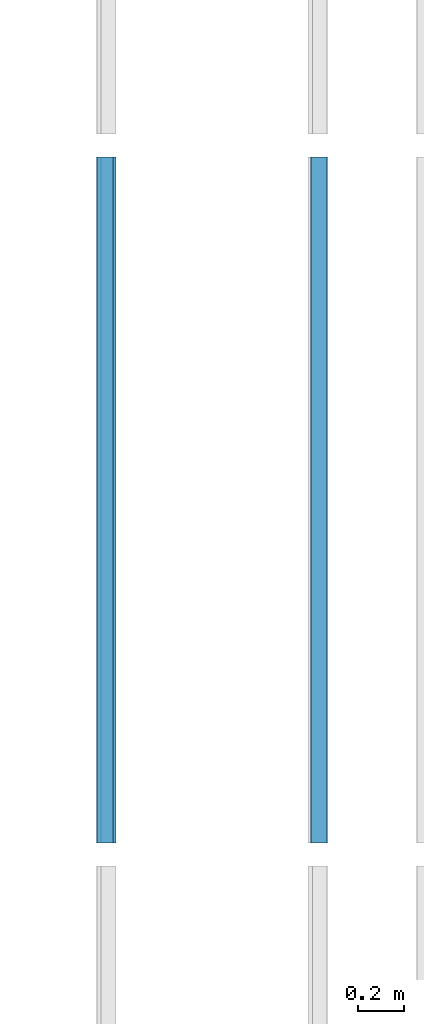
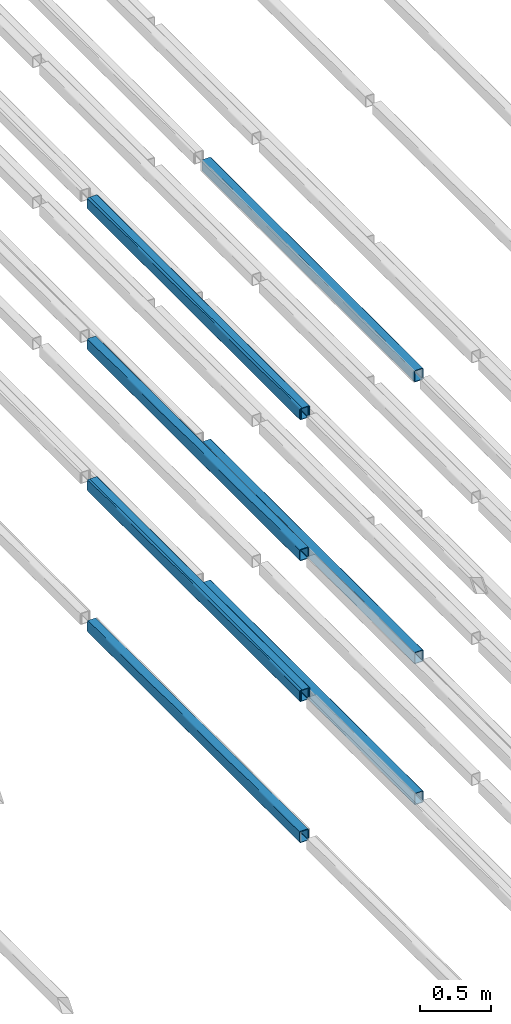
# One storey, part 46 of 290: 9 beams.
"""IFC2X3 building model written with IfcOpenShell, lengths in metres."""

from ifc_helpers import new_model, entity, si_unit, converted_unit, derived_unit, direction, frame, frame_2d, origin, place, context, subcontext, project, spatial, polyline, circle_curve, parameter, trimmed, segment, composite_curve, outline, extrude, material, type_object, element, save


model = new_model("IFC2X3")

# Units and contexts
model_context = context("Model", 3, precision=1e-05, world=origin(), true_north=direction((6.12303176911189e-17, 1.0)))
body_context = subcontext(model_context, "Body", "Model", "MODEL_VIEW")
ifc_project = project(units=[si_unit("LENGTHUNIT", "METRE"), si_unit("AREAUNIT", "SQUARE_METRE"), si_unit("VOLUMEUNIT", "CUBIC_METRE"), converted_unit("PLANEANGLEUNIT", "DEGREE", entity("IfcRatioMeasure", 0.0174532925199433), si_unit("PLANEANGLEUNIT", "RADIAN"), dimensions=[0, 0, 0, 0, 0, 0, 0]), si_unit("MASSUNIT", "GRAM", prefix="KILO"), derived_unit("MASSDENSITYUNIT", [(si_unit("MASSUNIT", "GRAM", prefix="KILO"), 1), (si_unit("LENGTHUNIT", "METRE"), -3)]), derived_unit("MOMENTOFINERTIAUNIT", [(si_unit("LENGTHUNIT", "METRE"), 4)]), si_unit("TIMEUNIT", "SECOND"), si_unit("FREQUENCYUNIT", "HERTZ"), si_unit("THERMODYNAMICTEMPERATUREUNIT", "DEGREE_CELSIUS"), derived_unit("THERMALTRANSMITTANCEUNIT", [(si_unit("MASSUNIT", "GRAM", prefix="KILO"), 1), (si_unit("THERMODYNAMICTEMPERATUREUNIT", "KELVIN"), -1), (si_unit("TIMEUNIT", "SECOND"), -3)]), derived_unit("VOLUMETRICFLOWRATEUNIT", [(si_unit("LENGTHUNIT", "METRE"), 3), (si_unit("TIMEUNIT", "SECOND"), -1)]), si_unit("ELECTRICCURRENTUNIT", "AMPERE"), si_unit("ELECTRICVOLTAGEUNIT", "VOLT"), si_unit("POWERUNIT", "WATT"), si_unit("FORCEUNIT", "NEWTON", prefix="KILO"), si_unit("ILLUMINANCEUNIT", "LUX"), si_unit("LUMINOUSFLUXUNIT", "LUMEN"), si_unit("LUMINOUSINTENSITYUNIT", "CANDELA"), derived_unit("USERDEFINED", [(si_unit("MASSUNIT", "GRAM", prefix="KILO"), -1), (si_unit("LENGTHUNIT", "METRE"), -2), (si_unit("TIMEUNIT", "SECOND"), 3), (si_unit("LUMINOUSFLUXUNIT", "LUMEN"), 1)]), derived_unit("LINEARVELOCITYUNIT", [(si_unit("LENGTHUNIT", "METRE"), 1), (si_unit("TIMEUNIT", "SECOND"), -1)]), si_unit("PRESSUREUNIT", "PASCAL"), derived_unit("USERDEFINED", [(si_unit("LENGTHUNIT", "METRE"), -2), (si_unit("MASSUNIT", "GRAM", prefix="KILO"), 1), (si_unit("TIMEUNIT", "SECOND"), -2)]), derived_unit("LINEARFORCEUNIT", [(si_unit("MASSUNIT", "GRAM", prefix="KILO"), 1), (si_unit("LENGTHUNIT", "METRE"), 1), (si_unit("TIMEUNIT", "SECOND"), -2), (si_unit("LENGTHUNIT", "METRE"), -1)]), derived_unit("PLANARFORCEUNIT", [(si_unit("MASSUNIT", "GRAM", prefix="KILO"), 1), (si_unit("LENGTHUNIT", "METRE"), 1), (si_unit("TIMEUNIT", "SECOND"), -2), (si_unit("LENGTHUNIT", "METRE"), -2)])], contexts=[model_context])

# Site, building, storey
site_placement = place(None, origin())
site = spatial("IfcSite", under=ifc_project, at=site_placement, Name="Default", CompositionType="ELEMENT")
building_placement = place(site_placement, origin())
building = spatial("IfcBuilding", under=site, at=building_placement, CompositionType="ELEMENT")
storey_placement = place(building_placement, frame((0.0, 0.0, 4.0)))
storey = spatial("IfcBuildingStorey", under=building, at=storey_placement, Name="01_OG", CompositionType="ELEMENT", Elevation=4.0)

# Beams
ifc_material = material(Name="Metall - Baustahl S235 blau")
beam_type = type_object("IfcBeamType", Name="RHS Träger (EN 10219-2):RHS 100 x 75 x 5", PredefinedType="NOTDEFINED")
beam_1_placement = place(storey_placement, frame((-202.105111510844, 36.448088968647, 0.0150000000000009), z_axis=(0.0, 0.0, 1.0), x_axis=(0.0, 1.0, 0.0)))
element("IfcBeam", 1, at=beam_1_placement, inside=storey, type_object=beam_type, material=ifc_material, Name="RHS Träger (EN 10219-2):RHS 100 x 75 x 5", ObjectType="RHS Träger (EN 10219-2):RHS 100 x 75 x 5", context=body_context, shape_type="SweptSolid", body=[
    extrude(outline(composite_curve([segment(trimmed(circle_curve(frame_2d((-0.0274999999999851, -0.0400000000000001), x_axis=(1.0, 0.0)), 0.01), [parameter(180.0)], [parameter(270.0)], True, "PARAMETER"), True, "CONTINUOUS"), segment(polyline([(-0.0274999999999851, -0.05), (0.0274999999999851, -0.05)]), True, "CONTINUOUS"), segment(trimmed(circle_curve(frame_2d((0.0274999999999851, -0.0400000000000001), x_axis=(1.0, 0.0)), 0.01), [parameter(270.0)], [parameter(5.08888749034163e-14)], True, "PARAMETER"), True, "CONTINUOUS"), segment(polyline([(0.0375000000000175, -0.0400000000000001), (0.0375000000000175, 0.0400000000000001)]), True, "CONTINUOUS"), segment(trimmed(circle_curve(frame_2d((0.0274999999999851, 0.0400000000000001), x_axis=(1.0, 0.0)), 0.01), [parameter(360.0)], [parameter(89.9999999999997)], True, "PARAMETER"), True, "CONTINUOUS"), segment(polyline([(0.0274999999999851, 0.05), (-0.0274999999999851, 0.05)]), True, "CONTINUOUS"), segment(trimmed(circle_curve(frame_2d((-0.0274999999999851, 0.0400000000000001), x_axis=(1.0, 0.0)), 0.01), [parameter(90.0000000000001)], [parameter(180.0)], True, "PARAMETER"), True, "CONTINUOUS"), segment(polyline([(-0.0374999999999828, 0.0400000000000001), (-0.0374999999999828, -0.0400000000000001)]), True, "CONTINUOUS")], self_intersect=False), holes=[composite_curve([segment(polyline([(0.0274999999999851, -0.0450000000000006), (-0.0274999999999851, -0.0450000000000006)]), True, "CONTINUOUS"), segment(trimmed(circle_curve(frame_2d((-0.0274999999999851, -0.0400000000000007), x_axis=(1.0, 0.0)), 0.005), [parameter(180.0)], [parameter(270.0)], True, "PARAMETER"), False, "CONTINUOUS"), segment(polyline([(-0.0325000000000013, -0.0400000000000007), (-0.0325000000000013, 0.039999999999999)]), True, "CONTINUOUS"), segment(trimmed(circle_curve(frame_2d((-0.0274999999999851, 0.039999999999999), x_axis=(1.0, 0.0)), 0.005), [parameter(90.0000000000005)], [parameter(180.0)], True, "PARAMETER"), False, "CONTINUOUS"), segment(polyline([(-0.0274999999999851, 0.044999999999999), (0.0274999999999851, 0.044999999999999)]), True, "CONTINUOUS"), segment(trimmed(circle_curve(frame_2d((0.0274999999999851, 0.039999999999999), x_axis=(1.0, 0.0)), 0.005), [parameter(0.0)], [parameter(90.0000000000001)], True, "PARAMETER"), False, "CONTINUOUS"), segment(polyline([(0.0325000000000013, 0.039999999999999), (0.0325000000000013, -0.0400000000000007)]), True, "CONTINUOUS"), segment(trimmed(circle_curve(frame_2d((0.0274999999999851, -0.0400000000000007), x_axis=(1.0, 0.0)), 0.005), [parameter(270.0)], [parameter(4.07110999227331e-13)], True, "PARAMETER"), False, "CONTINUOUS")], self_intersect=False)]), frame((9.9999999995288e-05, 0.0375000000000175, -0.0500000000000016), z_axis=(1.0, 0.0, 0.0), x_axis=(0.0, -1.0, 0.0)), (0.0, 0.0, 1.0), 2.9998),
])
beam_2_placement = place(storey_placement, frame((-202.105111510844, 36.448088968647, 2.445), z_axis=(0.0, 0.0, 1.0), x_axis=(0.0, 1.0, 0.0)))
element("IfcBeam", 2, at=beam_2_placement, inside=storey, type_object=beam_type, material=ifc_material, Name="RHS Träger (EN 10219-2):RHS 100 x 75 x 5", ObjectType="RHS Träger (EN 10219-2):RHS 100 x 75 x 5", context=body_context, shape_type="SweptSolid", body=[
    extrude(outline(composite_curve([segment(trimmed(circle_curve(frame_2d((-0.0274999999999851, -0.0399999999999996), x_axis=(1.0, 0.0)), 0.01), [parameter(180.0)], [parameter(270.0)], True, "PARAMETER"), True, "CONTINUOUS"), segment(polyline([(-0.0274999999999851, -0.0499999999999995), (0.0274999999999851, -0.0499999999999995)]), True, "CONTINUOUS"), segment(trimmed(circle_curve(frame_2d((0.0274999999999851, -0.0399999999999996), x_axis=(1.0, 0.0)), 0.01), [parameter(270.0)], [parameter(5.08888749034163e-14)], True, "PARAMETER"), True, "CONTINUOUS"), segment(polyline([(0.0375000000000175, -0.0399999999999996), (0.0375000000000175, 0.0399999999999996)]), True, "CONTINUOUS"), segment(trimmed(circle_curve(frame_2d((0.0274999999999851, 0.0399999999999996), x_axis=(1.0, 0.0)), 0.01), [parameter(360.0)], [parameter(89.9999999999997)], True, "PARAMETER"), True, "CONTINUOUS"), segment(polyline([(0.0274999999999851, 0.0500000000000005), (-0.0274999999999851, 0.0500000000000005)]), True, "CONTINUOUS"), segment(trimmed(circle_curve(frame_2d((-0.0274999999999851, 0.0399999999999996), x_axis=(1.0, 0.0)), 0.01), [parameter(90.0000000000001)], [parameter(180.0)], True, "PARAMETER"), True, "CONTINUOUS"), segment(polyline([(-0.0374999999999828, 0.0399999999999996), (-0.0374999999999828, -0.0399999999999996)]), True, "CONTINUOUS")], self_intersect=False), holes=[composite_curve([segment(polyline([(0.0274999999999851, -0.0450000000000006), (-0.0274999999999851, -0.0450000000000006)]), True, "CONTINUOUS"), segment(trimmed(circle_curve(frame_2d((-0.0274999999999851, -0.0400000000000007), x_axis=(1.0, 0.0)), 0.005), [parameter(180.0)], [parameter(270.0)], True, "PARAMETER"), False, "CONTINUOUS"), segment(polyline([(-0.0325000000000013, -0.0400000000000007), (-0.0325000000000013, 0.0399999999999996)]), True, "CONTINUOUS"), segment(trimmed(circle_curve(frame_2d((-0.0274999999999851, 0.0399999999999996), x_axis=(1.0, 0.0)), 0.005), [parameter(90.0000000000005)], [parameter(180.0)], True, "PARAMETER"), False, "CONTINUOUS"), segment(polyline([(-0.0274999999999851, 0.0449999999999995), (0.0274999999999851, 0.0449999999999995)]), True, "CONTINUOUS"), segment(trimmed(circle_curve(frame_2d((0.0274999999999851, 0.0399999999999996), x_axis=(1.0, 0.0)), 0.005), [parameter(0.0)], [parameter(90.0000000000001)], True, "PARAMETER"), False, "CONTINUOUS"), segment(polyline([(0.0325000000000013, 0.0399999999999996), (0.0325000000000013, -0.0400000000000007)]), True, "CONTINUOUS"), segment(trimmed(circle_curve(frame_2d((0.0274999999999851, -0.0400000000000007), x_axis=(1.0, 0.0)), 0.005), [parameter(270.0)], [parameter(4.07110999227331e-13)], True, "PARAMETER"), False, "CONTINUOUS")], self_intersect=False)]), frame((9.99999999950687e-05, 0.0375000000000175, -0.0500000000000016), z_axis=(1.0, 0.0, 0.0), x_axis=(0.0, -1.0, 0.0)), (0.0, 0.0, 1.0), 2.9998),
])
beam_3_placement = place(storey_placement, frame((-201.255111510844, 36.448088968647, -1.2), z_axis=(0.0, 0.0, 1.0), x_axis=(0.0, 1.0, 0.0)))
element("IfcBeam", 3, at=beam_3_placement, inside=storey, type_object=beam_type, material=ifc_material, Name="RHS Träger (EN 10219-2):RHS 100 x 75 x 5", ObjectType="RHS Träger (EN 10219-2):RHS 100 x 75 x 5", context=body_context, shape_type="SweptSolid", body=[
    extrude(outline(composite_curve([segment(polyline([(-0.0400000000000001, -0.0374999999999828), (0.0400000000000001, -0.0374999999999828)]), True, "CONTINUOUS"), segment(trimmed(circle_curve(frame_2d((0.0400000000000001, -0.0274999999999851), x_axis=(0.0, 1.0)), 0.01), [parameter(180.0)], [parameter(270.0)], True, "PARAMETER"), True, "CONTINUOUS"), segment(polyline([(0.05, -0.0274999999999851), (0.05, 0.0274999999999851)]), True, "CONTINUOUS"), segment(trimmed(circle_curve(frame_2d((0.0400000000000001, 0.0274999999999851), x_axis=(0.0, 1.0)), 0.01), [parameter(270.0)], [parameter(4.07110999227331e-13)], True, "PARAMETER"), True, "CONTINUOUS"), segment(polyline([(0.0400000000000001, 0.0375000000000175), (-0.0400000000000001, 0.0375000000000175)]), True, "CONTINUOUS"), segment(trimmed(circle_curve(frame_2d((-0.0400000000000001, 0.0274999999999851), x_axis=(0.0, 1.0)), 0.01), [parameter(360.0)], [parameter(90.0000000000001)], True, "PARAMETER"), True, "CONTINUOUS"), segment(polyline([(-0.05, 0.0274999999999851), (-0.05, -0.0274999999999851)]), True, "CONTINUOUS"), segment(trimmed(circle_curve(frame_2d((-0.0400000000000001, -0.0274999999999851), x_axis=(0.0, 1.0)), 0.01), [parameter(90.0000000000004)], [parameter(180.0)], True, "PARAMETER"), True, "CONTINUOUS")], self_intersect=False), holes=[composite_curve([segment(trimmed(circle_curve(frame_2d((-0.0400000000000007, 0.0274999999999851), x_axis=(0.0, 1.0)), 0.005), [parameter(360.0)], [parameter(89.9999999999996)], True, "PARAMETER"), False, "CONTINUOUS"), segment(polyline([(-0.0400000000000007, 0.0325000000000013), (0.039999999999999, 0.0325000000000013)]), True, "CONTINUOUS"), segment(trimmed(circle_curve(frame_2d((0.039999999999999, 0.0274999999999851), x_axis=(0.0, 1.0)), 0.005), [parameter(270.0)], [parameter(0.0)], True, "PARAMETER"), False, "CONTINUOUS"), segment(polyline([(0.044999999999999, 0.0274999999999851), (0.044999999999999, -0.0274999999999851)]), True, "CONTINUOUS"), segment(trimmed(circle_curve(frame_2d((0.039999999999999, -0.0274999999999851), x_axis=(0.0, 1.0)), 0.005), [parameter(180.0)], [parameter(269.999999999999)], True, "PARAMETER"), False, "CONTINUOUS"), segment(polyline([(0.039999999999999, -0.0325000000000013), (-0.0400000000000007, -0.0325000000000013)]), True, "CONTINUOUS"), segment(trimmed(circle_curve(frame_2d((-0.0400000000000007, -0.0274999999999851), x_axis=(0.0, 1.0)), 0.005), [parameter(90.0000000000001)], [parameter(180.0)], True, "PARAMETER"), False, "CONTINUOUS"), segment(polyline([(-0.0450000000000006, -0.0274999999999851), (-0.0450000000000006, 0.0274999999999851)]), True, "CONTINUOUS")], self_intersect=False)]), frame((9.99999999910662e-05, -0.0375000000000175, -0.0500000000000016), z_axis=(1.0, 0.0, 0.0), x_axis=(0.0, 0.0, -1.0)), (0.0, 0.0, 1.0), 2.9998),
])
beam_4_placement = place(storey_placement, frame((-201.255111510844, 36.448088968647, 0.0150000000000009), z_axis=(0.0, 0.0, 1.0), x_axis=(0.0, 1.0, 0.0)))
element("IfcBeam", 4, at=beam_4_placement, inside=storey, type_object=beam_type, material=ifc_material, Name="RHS Träger (EN 10219-2):RHS 100 x 75 x 5", ObjectType="RHS Träger (EN 10219-2):RHS 100 x 75 x 5", context=body_context, shape_type="SweptSolid", body=[
    extrude(outline(composite_curve([segment(polyline([(-0.0400000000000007, -0.0374999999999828), (0.0399999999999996, -0.0374999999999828)]), True, "CONTINUOUS"), segment(trimmed(circle_curve(frame_2d((0.0399999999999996, -0.0274999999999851), x_axis=(0.0, 1.0)), 0.01), [parameter(180.0)], [parameter(270.0)], True, "PARAMETER"), True, "CONTINUOUS"), segment(polyline([(0.0499999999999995, -0.0274999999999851), (0.0499999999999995, 0.0274999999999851)]), True, "CONTINUOUS"), segment(trimmed(circle_curve(frame_2d((0.0399999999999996, 0.0274999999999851), x_axis=(0.0, 1.0)), 0.01), [parameter(270.0)], [parameter(4.07110999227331e-13)], True, "PARAMETER"), True, "CONTINUOUS"), segment(polyline([(0.0399999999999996, 0.0375000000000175), (-0.0400000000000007, 0.0375000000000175)]), True, "CONTINUOUS"), segment(trimmed(circle_curve(frame_2d((-0.0400000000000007, 0.0274999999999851), x_axis=(0.0, 1.0)), 0.01), [parameter(360.0)], [parameter(90.0000000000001)], True, "PARAMETER"), True, "CONTINUOUS"), segment(polyline([(-0.0500000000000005, 0.0274999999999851), (-0.0500000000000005, -0.0274999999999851)]), True, "CONTINUOUS"), segment(trimmed(circle_curve(frame_2d((-0.0400000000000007, -0.0274999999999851), x_axis=(0.0, 1.0)), 0.01), [parameter(90.0000000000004)], [parameter(180.0)], True, "PARAMETER"), True, "CONTINUOUS")], self_intersect=False), holes=[composite_curve([segment(trimmed(circle_curve(frame_2d((-0.0400000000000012, 0.0274999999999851), x_axis=(0.0, 1.0)), 0.005), [parameter(360.0)], [parameter(89.9999999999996)], True, "PARAMETER"), False, "CONTINUOUS"), segment(polyline([(-0.0400000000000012, 0.0325000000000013), (0.0399999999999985, 0.0325000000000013)]), True, "CONTINUOUS"), segment(trimmed(circle_curve(frame_2d((0.0399999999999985, 0.0274999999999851), x_axis=(0.0, 1.0)), 0.005), [parameter(270.0)], [parameter(0.0)], True, "PARAMETER"), False, "CONTINUOUS"), segment(polyline([(0.0449999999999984, 0.0274999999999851), (0.0449999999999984, -0.0274999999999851)]), True, "CONTINUOUS"), segment(trimmed(circle_curve(frame_2d((0.0399999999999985, -0.0274999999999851), x_axis=(0.0, 1.0)), 0.005), [parameter(180.0)], [parameter(269.999999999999)], True, "PARAMETER"), False, "CONTINUOUS"), segment(polyline([(0.0399999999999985, -0.0325000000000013), (-0.0400000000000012, -0.0325000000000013)]), True, "CONTINUOUS"), segment(trimmed(circle_curve(frame_2d((-0.0400000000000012, -0.0274999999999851), x_axis=(0.0, 1.0)), 0.005), [parameter(90.0000000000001)], [parameter(180.0)], True, "PARAMETER"), False, "CONTINUOUS"), segment(polyline([(-0.0450000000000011, -0.0274999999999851), (-0.0450000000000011, 0.0274999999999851)]), True, "CONTINUOUS")], self_intersect=False)]), frame((9.99999999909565e-05, -0.0375000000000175, -0.0500000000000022), z_axis=(1.0, 0.0, 0.0), x_axis=(0.0, 0.0, -1.0)), (0.0, 0.0, 1.0), 2.9998),
])
beam_5_placement = place(storey_placement, frame((-201.255111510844, 36.448088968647, 2.445), z_axis=(0.0, 0.0, 1.0), x_axis=(0.0, 1.0, 0.0)))
element("IfcBeam", 5, at=beam_5_placement, inside=storey, type_object=beam_type, material=ifc_material, Name="RHS Träger (EN 10219-2):RHS 100 x 75 x 5", ObjectType="RHS Träger (EN 10219-2):RHS 100 x 75 x 5", context=body_context, shape_type="SweptSolid", body=[
    extrude(outline(composite_curve([segment(polyline([(-0.0399999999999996, -0.0374999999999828), (0.0399999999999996, -0.0374999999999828)]), True, "CONTINUOUS"), segment(trimmed(circle_curve(frame_2d((0.0399999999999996, -0.0274999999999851), x_axis=(0.0, 1.0)), 0.01), [parameter(180.0)], [parameter(270.0)], True, "PARAMETER"), True, "CONTINUOUS"), segment(polyline([(0.0500000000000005, -0.0274999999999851), (0.0500000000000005, 0.0274999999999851)]), True, "CONTINUOUS"), segment(trimmed(circle_curve(frame_2d((0.0399999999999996, 0.0274999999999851), x_axis=(0.0, 1.0)), 0.01), [parameter(270.0)], [parameter(4.07110999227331e-13)], True, "PARAMETER"), True, "CONTINUOUS"), segment(polyline([(0.0399999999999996, 0.0375000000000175), (-0.0399999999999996, 0.0375000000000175)]), True, "CONTINUOUS"), segment(trimmed(circle_curve(frame_2d((-0.0399999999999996, 0.0274999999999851), x_axis=(0.0, 1.0)), 0.01), [parameter(360.0)], [parameter(90.0000000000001)], True, "PARAMETER"), True, "CONTINUOUS"), segment(polyline([(-0.0499999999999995, 0.0274999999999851), (-0.0499999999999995, -0.0274999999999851)]), True, "CONTINUOUS"), segment(trimmed(circle_curve(frame_2d((-0.0399999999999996, -0.0274999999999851), x_axis=(0.0, 1.0)), 0.01), [parameter(90.0000000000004)], [parameter(180.0)], True, "PARAMETER"), True, "CONTINUOUS")], self_intersect=False), holes=[composite_curve([segment(trimmed(circle_curve(frame_2d((-0.0400000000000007, 0.0274999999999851), x_axis=(0.0, 1.0)), 0.005), [parameter(360.0)], [parameter(89.9999999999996)], True, "PARAMETER"), False, "CONTINUOUS"), segment(polyline([(-0.0400000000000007, 0.0325000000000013), (0.0399999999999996, 0.0325000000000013)]), True, "CONTINUOUS"), segment(trimmed(circle_curve(frame_2d((0.0399999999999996, 0.0274999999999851), x_axis=(0.0, 1.0)), 0.005), [parameter(270.0)], [parameter(0.0)], True, "PARAMETER"), False, "CONTINUOUS"), segment(polyline([(0.0449999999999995, 0.0274999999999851), (0.0449999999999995, -0.0274999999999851)]), True, "CONTINUOUS"), segment(trimmed(circle_curve(frame_2d((0.0399999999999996, -0.0274999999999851), x_axis=(0.0, 1.0)), 0.005), [parameter(180.0)], [parameter(269.999999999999)], True, "PARAMETER"), False, "CONTINUOUS"), segment(polyline([(0.0399999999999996, -0.0325000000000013), (-0.0400000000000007, -0.0325000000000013)]), True, "CONTINUOUS"), segment(trimmed(circle_curve(frame_2d((-0.0400000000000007, -0.0274999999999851), x_axis=(0.0, 1.0)), 0.005), [parameter(90.0000000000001)], [parameter(180.0)], True, "PARAMETER"), False, "CONTINUOUS"), segment(polyline([(-0.0450000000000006, -0.0274999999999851), (-0.0450000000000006, 0.0274999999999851)]), True, "CONTINUOUS")], self_intersect=False)]), frame((9.99999999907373e-05, -0.0375000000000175, -0.0500000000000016), z_axis=(1.0, 0.0, 0.0), x_axis=(0.0, 0.0, -1.0)), (0.0, 0.0, 1.0), 2.9998),
])
beam_6_placement = place(storey_placement, frame((-202.115111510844, 36.448088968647, -1.2), z_axis=(0.0, 0.0, 1.0), x_axis=(0.0, 1.0, 0.0)))
element("IfcBeam", 6, at=beam_6_placement, inside=storey, type_object=beam_type, material=ifc_material, Name="RHS Träger (EN 10219-2):RHS 100 x 75 x 5", ObjectType="RHS Träger (EN 10219-2):RHS 100 x 75 x 5", context=body_context, shape_type="SweptSolid", body=[
    extrude(outline(composite_curve([segment(trimmed(circle_curve(frame_2d((-0.0274999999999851, -0.0400000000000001), x_axis=(1.0, 0.0)), 0.01), [parameter(180.0)], [parameter(270.0)], True, "PARAMETER"), True, "CONTINUOUS"), segment(polyline([(-0.0274999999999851, -0.05), (0.0274999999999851, -0.05)]), True, "CONTINUOUS"), segment(trimmed(circle_curve(frame_2d((0.0274999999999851, -0.0400000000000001), x_axis=(1.0, 0.0)), 0.01), [parameter(270.0)], [parameter(5.08888749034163e-14)], True, "PARAMETER"), True, "CONTINUOUS"), segment(polyline([(0.0375000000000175, -0.0400000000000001), (0.0375000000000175, 0.0400000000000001)]), True, "CONTINUOUS"), segment(trimmed(circle_curve(frame_2d((0.0274999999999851, 0.0400000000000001), x_axis=(1.0, 0.0)), 0.01), [parameter(360.0)], [parameter(89.9999999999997)], True, "PARAMETER"), True, "CONTINUOUS"), segment(polyline([(0.0274999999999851, 0.05), (-0.0274999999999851, 0.05)]), True, "CONTINUOUS"), segment(trimmed(circle_curve(frame_2d((-0.0274999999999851, 0.0400000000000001), x_axis=(1.0, 0.0)), 0.01), [parameter(90.0000000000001)], [parameter(180.0)], True, "PARAMETER"), True, "CONTINUOUS"), segment(polyline([(-0.0374999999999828, 0.0400000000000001), (-0.0374999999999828, -0.0400000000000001)]), True, "CONTINUOUS")], self_intersect=False), holes=[composite_curve([segment(polyline([(0.0274999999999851, -0.0450000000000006), (-0.0274999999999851, -0.0450000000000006)]), True, "CONTINUOUS"), segment(trimmed(circle_curve(frame_2d((-0.0274999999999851, -0.0400000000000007), x_axis=(1.0, 0.0)), 0.005), [parameter(180.0)], [parameter(270.0)], True, "PARAMETER"), False, "CONTINUOUS"), segment(polyline([(-0.0325000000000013, -0.0400000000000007), (-0.0325000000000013, 0.039999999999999)]), True, "CONTINUOUS"), segment(trimmed(circle_curve(frame_2d((-0.0274999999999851, 0.039999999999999), x_axis=(1.0, 0.0)), 0.005), [parameter(90.0000000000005)], [parameter(180.0)], True, "PARAMETER"), False, "CONTINUOUS"), segment(polyline([(-0.0274999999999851, 0.044999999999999), (0.0274999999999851, 0.044999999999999)]), True, "CONTINUOUS"), segment(trimmed(circle_curve(frame_2d((0.0274999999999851, 0.039999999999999), x_axis=(1.0, 0.0)), 0.005), [parameter(0.0)], [parameter(90.0000000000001)], True, "PARAMETER"), False, "CONTINUOUS"), segment(polyline([(0.0325000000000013, 0.039999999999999), (0.0325000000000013, -0.0400000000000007)]), True, "CONTINUOUS"), segment(trimmed(circle_curve(frame_2d((0.0274999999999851, -0.0400000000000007), x_axis=(1.0, 0.0)), 0.005), [parameter(270.0)], [parameter(4.07110999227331e-13)], True, "PARAMETER"), False, "CONTINUOUS")], self_intersect=False)]), frame((9.99999999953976e-05, 0.0375000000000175, -0.0500000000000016), z_axis=(1.0, 0.0, 0.0), x_axis=(0.0, -1.0, 0.0)), (0.0, 0.0, 1.0), 2.9998),
])
beam_7_placement = place(storey_placement, frame((-202.115111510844, 36.448088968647, 0.0150000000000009), z_axis=(0.0, 0.0, 1.0), x_axis=(0.0, 1.0, 0.0)))
element("IfcBeam", 7, at=beam_7_placement, inside=storey, type_object=beam_type, material=ifc_material, Name="RHS Träger (EN 10219-2):RHS 100 x 75 x 5", ObjectType="RHS Träger (EN 10219-2):RHS 100 x 75 x 5", context=body_context, shape_type="SweptSolid", body=[
    extrude(outline(composite_curve([segment(trimmed(circle_curve(frame_2d((-0.0274999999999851, -0.0400000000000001), x_axis=(1.0, 0.0)), 0.01), [parameter(180.0)], [parameter(270.0)], True, "PARAMETER"), True, "CONTINUOUS"), segment(polyline([(-0.0274999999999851, -0.05), (0.0274999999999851, -0.05)]), True, "CONTINUOUS"), segment(trimmed(circle_curve(frame_2d((0.0274999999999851, -0.0400000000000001), x_axis=(1.0, 0.0)), 0.01), [parameter(270.0)], [parameter(5.08888749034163e-14)], True, "PARAMETER"), True, "CONTINUOUS"), segment(polyline([(0.0375000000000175, -0.0400000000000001), (0.0375000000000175, 0.0400000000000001)]), True, "CONTINUOUS"), segment(trimmed(circle_curve(frame_2d((0.0274999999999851, 0.0400000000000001), x_axis=(1.0, 0.0)), 0.01), [parameter(360.0)], [parameter(89.9999999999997)], True, "PARAMETER"), True, "CONTINUOUS"), segment(polyline([(0.0274999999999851, 0.05), (-0.0274999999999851, 0.05)]), True, "CONTINUOUS"), segment(trimmed(circle_curve(frame_2d((-0.0274999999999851, 0.0400000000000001), x_axis=(1.0, 0.0)), 0.01), [parameter(90.0000000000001)], [parameter(180.0)], True, "PARAMETER"), True, "CONTINUOUS"), segment(polyline([(-0.0374999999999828, 0.0400000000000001), (-0.0374999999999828, -0.0400000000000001)]), True, "CONTINUOUS")], self_intersect=False), holes=[composite_curve([segment(polyline([(0.0274999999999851, -0.0450000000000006), (-0.0274999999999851, -0.0450000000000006)]), True, "CONTINUOUS"), segment(trimmed(circle_curve(frame_2d((-0.0274999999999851, -0.0400000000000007), x_axis=(1.0, 0.0)), 0.005), [parameter(180.0)], [parameter(270.0)], True, "PARAMETER"), False, "CONTINUOUS"), segment(polyline([(-0.0325000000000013, -0.0400000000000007), (-0.0325000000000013, 0.039999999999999)]), True, "CONTINUOUS"), segment(trimmed(circle_curve(frame_2d((-0.0274999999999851, 0.039999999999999), x_axis=(1.0, 0.0)), 0.005), [parameter(90.0000000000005)], [parameter(180.0)], True, "PARAMETER"), False, "CONTINUOUS"), segment(polyline([(-0.0274999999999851, 0.044999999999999), (0.0274999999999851, 0.044999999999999)]), True, "CONTINUOUS"), segment(trimmed(circle_curve(frame_2d((0.0274999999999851, 0.039999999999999), x_axis=(1.0, 0.0)), 0.005), [parameter(0.0)], [parameter(90.0000000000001)], True, "PARAMETER"), False, "CONTINUOUS"), segment(polyline([(0.0325000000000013, 0.039999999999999), (0.0325000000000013, -0.0400000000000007)]), True, "CONTINUOUS"), segment(trimmed(circle_curve(frame_2d((0.0274999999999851, -0.0400000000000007), x_axis=(1.0, 0.0)), 0.005), [parameter(270.0)], [parameter(4.07110999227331e-13)], True, "PARAMETER"), False, "CONTINUOUS")], self_intersect=False)]), frame((9.9999999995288e-05, 0.0375000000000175, -0.0500000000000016), z_axis=(1.0, 0.0, 0.0), x_axis=(0.0, -1.0, 0.0)), (0.0, 0.0, 1.0), 2.9998),
])
beam_8_placement = place(storey_placement, frame((-202.115111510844, 36.448088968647, 1.23), z_axis=(0.0, 0.0, 1.0), x_axis=(0.0, 1.0, 0.0)))
element("IfcBeam", 8, at=beam_8_placement, inside=storey, type_object=beam_type, material=ifc_material, Name="RHS Träger (EN 10219-2):RHS 100 x 75 x 5", ObjectType="RHS Träger (EN 10219-2):RHS 100 x 75 x 5", context=body_context, shape_type="SweptSolid", body=[
    extrude(outline(composite_curve([segment(trimmed(circle_curve(frame_2d((-0.0274999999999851, -0.0399999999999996), x_axis=(1.0, 0.0)), 0.01), [parameter(180.0)], [parameter(270.0)], True, "PARAMETER"), True, "CONTINUOUS"), segment(polyline([(-0.0274999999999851, -0.0499999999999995), (0.0274999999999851, -0.0499999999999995)]), True, "CONTINUOUS"), segment(trimmed(circle_curve(frame_2d((0.0274999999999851, -0.0399999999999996), x_axis=(1.0, 0.0)), 0.01), [parameter(270.0)], [parameter(5.08888749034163e-14)], True, "PARAMETER"), True, "CONTINUOUS"), segment(polyline([(0.0375000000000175, -0.0399999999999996), (0.0375000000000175, 0.0399999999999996)]), True, "CONTINUOUS"), segment(trimmed(circle_curve(frame_2d((0.0274999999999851, 0.0399999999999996), x_axis=(1.0, 0.0)), 0.01), [parameter(360.0)], [parameter(89.9999999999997)], True, "PARAMETER"), True, "CONTINUOUS"), segment(polyline([(0.0274999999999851, 0.0500000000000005), (-0.0274999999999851, 0.0500000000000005)]), True, "CONTINUOUS"), segment(trimmed(circle_curve(frame_2d((-0.0274999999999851, 0.0399999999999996), x_axis=(1.0, 0.0)), 0.01), [parameter(90.0000000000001)], [parameter(180.0)], True, "PARAMETER"), True, "CONTINUOUS"), segment(polyline([(-0.0374999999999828, 0.0399999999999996), (-0.0374999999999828, -0.0399999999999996)]), True, "CONTINUOUS")], self_intersect=False), holes=[composite_curve([segment(polyline([(0.0274999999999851, -0.0450000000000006), (-0.0274999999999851, -0.0450000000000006)]), True, "CONTINUOUS"), segment(trimmed(circle_curve(frame_2d((-0.0274999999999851, -0.0400000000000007), x_axis=(1.0, 0.0)), 0.005), [parameter(180.0)], [parameter(270.0)], True, "PARAMETER"), False, "CONTINUOUS"), segment(polyline([(-0.0325000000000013, -0.0400000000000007), (-0.0325000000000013, 0.0399999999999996)]), True, "CONTINUOUS"), segment(trimmed(circle_curve(frame_2d((-0.0274999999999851, 0.0399999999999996), x_axis=(1.0, 0.0)), 0.005), [parameter(90.0000000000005)], [parameter(180.0)], True, "PARAMETER"), False, "CONTINUOUS"), segment(polyline([(-0.0274999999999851, 0.0449999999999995), (0.0274999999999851, 0.0449999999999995)]), True, "CONTINUOUS"), segment(trimmed(circle_curve(frame_2d((0.0274999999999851, 0.0399999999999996), x_axis=(1.0, 0.0)), 0.005), [parameter(0.0)], [parameter(90.0000000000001)], True, "PARAMETER"), False, "CONTINUOUS"), segment(polyline([(0.0325000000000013, 0.0399999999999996), (0.0325000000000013, -0.0400000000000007)]), True, "CONTINUOUS"), segment(trimmed(circle_curve(frame_2d((0.0274999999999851, -0.0400000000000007), x_axis=(1.0, 0.0)), 0.005), [parameter(270.0)], [parameter(4.07110999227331e-13)], True, "PARAMETER"), False, "CONTINUOUS")], self_intersect=False)]), frame((9.99999999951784e-05, 0.0375000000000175, -0.0500000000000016), z_axis=(1.0, 0.0, 0.0), x_axis=(0.0, -1.0, 0.0)), (0.0, 0.0, 1.0), 2.9998),
])
beam_9_placement = place(storey_placement, frame((-202.115111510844, 36.448088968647, 2.445), z_axis=(0.0, 0.0, 1.0), x_axis=(0.0, 1.0, 0.0)))
element("IfcBeam", 9, at=beam_9_placement, inside=storey, type_object=beam_type, material=ifc_material, Name="RHS Träger (EN 10219-2):RHS 100 x 75 x 5", ObjectType="RHS Träger (EN 10219-2):RHS 100 x 75 x 5", context=body_context, shape_type="SweptSolid", body=[
    extrude(outline(composite_curve([segment(trimmed(circle_curve(frame_2d((-0.0274999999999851, -0.0399999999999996), x_axis=(1.0, 0.0)), 0.01), [parameter(180.0)], [parameter(270.0)], True, "PARAMETER"), True, "CONTINUOUS"), segment(polyline([(-0.0274999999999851, -0.0499999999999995), (0.0274999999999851, -0.0499999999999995)]), True, "CONTINUOUS"), segment(trimmed(circle_curve(frame_2d((0.0274999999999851, -0.0399999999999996), x_axis=(1.0, 0.0)), 0.01), [parameter(270.0)], [parameter(5.08888749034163e-14)], True, "PARAMETER"), True, "CONTINUOUS"), segment(polyline([(0.0375000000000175, -0.0399999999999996), (0.0375000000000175, 0.0399999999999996)]), True, "CONTINUOUS"), segment(trimmed(circle_curve(frame_2d((0.0274999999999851, 0.0399999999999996), x_axis=(1.0, 0.0)), 0.01), [parameter(360.0)], [parameter(89.9999999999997)], True, "PARAMETER"), True, "CONTINUOUS"), segment(polyline([(0.0274999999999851, 0.0500000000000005), (-0.0274999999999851, 0.0500000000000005)]), True, "CONTINUOUS"), segment(trimmed(circle_curve(frame_2d((-0.0274999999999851, 0.0399999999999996), x_axis=(1.0, 0.0)), 0.01), [parameter(90.0000000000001)], [parameter(180.0)], True, "PARAMETER"), True, "CONTINUOUS"), segment(polyline([(-0.0374999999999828, 0.0399999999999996), (-0.0374999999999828, -0.0399999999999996)]), True, "CONTINUOUS")], self_intersect=False), holes=[composite_curve([segment(polyline([(0.0274999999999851, -0.0450000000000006), (-0.0274999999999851, -0.0450000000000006)]), True, "CONTINUOUS"), segment(trimmed(circle_curve(frame_2d((-0.0274999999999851, -0.0400000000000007), x_axis=(1.0, 0.0)), 0.005), [parameter(180.0)], [parameter(270.0)], True, "PARAMETER"), False, "CONTINUOUS"), segment(polyline([(-0.0325000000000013, -0.0400000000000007), (-0.0325000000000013, 0.0399999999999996)]), True, "CONTINUOUS"), segment(trimmed(circle_curve(frame_2d((-0.0274999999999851, 0.0399999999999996), x_axis=(1.0, 0.0)), 0.005), [parameter(90.0000000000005)], [parameter(180.0)], True, "PARAMETER"), False, "CONTINUOUS"), segment(polyline([(-0.0274999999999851, 0.0449999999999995), (0.0274999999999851, 0.0449999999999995)]), True, "CONTINUOUS"), segment(trimmed(circle_curve(frame_2d((0.0274999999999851, 0.0399999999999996), x_axis=(1.0, 0.0)), 0.005), [parameter(0.0)], [parameter(90.0000000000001)], True, "PARAMETER"), False, "CONTINUOUS"), segment(polyline([(0.0325000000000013, 0.0399999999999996), (0.0325000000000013, -0.0400000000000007)]), True, "CONTINUOUS"), segment(trimmed(circle_curve(frame_2d((0.0274999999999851, -0.0400000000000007), x_axis=(1.0, 0.0)), 0.005), [parameter(270.0)], [parameter(4.07110999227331e-13)], True, "PARAMETER"), False, "CONTINUOUS")], self_intersect=False)]), frame((9.99999999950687e-05, 0.0375000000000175, -0.0500000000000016), z_axis=(1.0, 0.0, 0.0), x_axis=(0.0, -1.0, 0.0)), (0.0, 0.0, 1.0), 2.9998),
])

save(model, "model.ifc")
